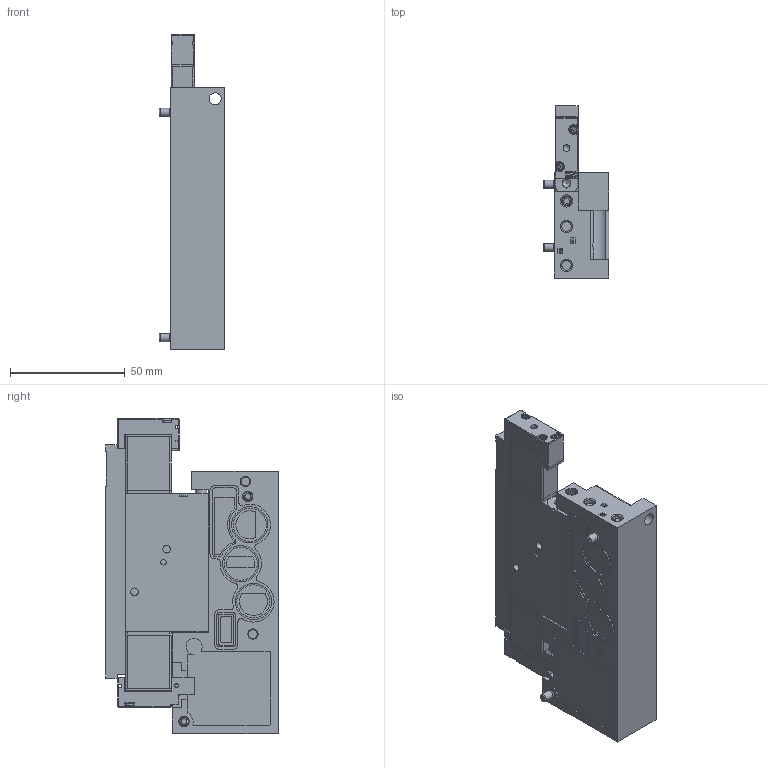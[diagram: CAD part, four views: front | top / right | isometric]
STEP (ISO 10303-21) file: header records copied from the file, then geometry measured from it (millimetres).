
FILE_DESCRIPTION (( 'STEP AP214' ), '1' );
FILE_NAME ('42 DBL END.STEP', '2019-09-16T18:11:13', ( 'user' ), ( '' ), 'SwSTEP 2.0', 'SolidWorks 2014', '' );
FILE_SCHEMA (( 'AUTOMOTIVE_DESIGN' ));
Length unit declared in the file: millimetre
Products named in the file (3): 42A-000-BL1(SC); 42A-BME-000-GXXP-1FB(SC); 42 DBL END
Assembly tree (2 placements, depth 2):
  42 DBL END
    42A-BME-000-GXXP-1FB(SC)
    42A-000-BL1(SC)
Bounding box: 28.7 x 75 x 137 mm (x, y, z)
Volume: 117091.8 mm3; surface area: 54866.8 mm2
Topology: 30 solids, 38 shells, 1884 faces, 4727 edges, 2972 vertices
Faces by surface type: plane 1003, cylinder 621, bspline 196, cone 64
Full cylindrical faces by diameter (mm): 0.75 x2, 0.95 x4, 1 x4, 1.43 x2, 1.5 x8, 1.52 x2, 1.65 x4, 1.7 x8, 1.73 x2, 1.83 x8, 2 x4, 2.1 x4, 2.18 x4, 2.3 x4, 2.38 x5, 2.4 x3, 2.6 x1, 2.7 x2, 2.95 x3, 3.064 x1, 3.3 x2, 3.5 x2, 3.57 x1, 3.68 x2, 3.8 x6, 3.97 x1, 3.99 x2, 4 x4, 4.09 x2, 4.1 x2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
Entity records: 81001 total; most frequent: CARTESIAN_POINT 16321, DIRECTION 8872, ORIENTED_EDGE 8842, EDGE_CURVE 4421, AXIS2_PLACEMENT_3D 2979, VERTEX_POINT 2933, LINE 2914, VECTOR 2914
